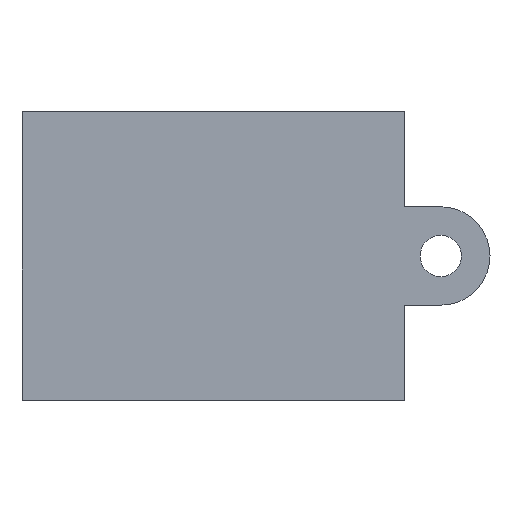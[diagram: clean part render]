
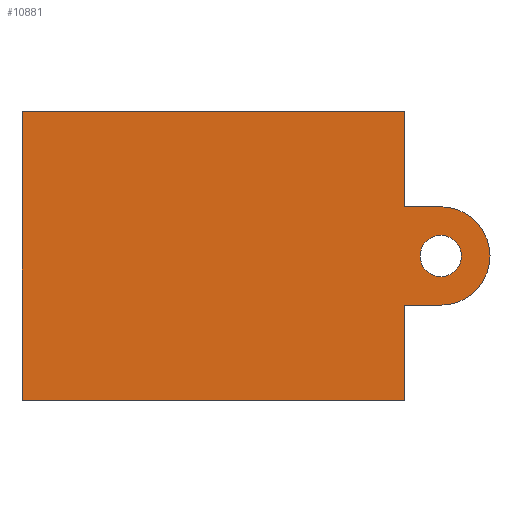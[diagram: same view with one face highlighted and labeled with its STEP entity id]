
A CAD part, top view. The second image highlights one B-rep face of the part: STEP entity #10881.
In plain terms, the highlighted planar face has unit normal (0, 0, 1).
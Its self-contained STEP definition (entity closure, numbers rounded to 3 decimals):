
#390=LINE('',#15759,#1622);
#492=LINE('',#16279,#1724);
#550=LINE('',#16466,#1782);
#594=LINE('',#16808,#1826);
#600=LINE('',#16828,#1832);
#601=LINE('',#16830,#1833);
#602=LINE('',#16834,#1834);
#1622=VECTOR('',#12608,1000.);
#1724=VECTOR('',#12870,1000.);
#1782=VECTOR('',#13010,1000.);
#1826=VECTOR('',#13210,1000.);
#1832=VECTOR('',#13228,1000.);
#1833=VECTOR('',#13229,1000.);
#1834=VECTOR('',#13232,1000.);
#3404=ORIENTED_EDGE('',*,*,#6605,.T.);
#3405=ORIENTED_EDGE('',*,*,#6606,.T.);
#3406=ORIENTED_EDGE('',*,*,#6607,.T.);
#3407=ORIENTED_EDGE('',*,*,#6608,.T.);
#3408=ORIENTED_EDGE('',*,*,#6609,.T.);
#3409=ORIENTED_EDGE('',*,*,#6171,.T.);
#3410=ORIENTED_EDGE('',*,*,#6468,.F.);
#3411=ORIENTED_EDGE('',*,*,#6595,.F.);
#3412=ORIENTED_EDGE('',*,*,#6375,.T.);
#6171=EDGE_CURVE('',#7816,#7818,#390,.T.);
#6375=EDGE_CURVE('',#8003,#8002,#492,.T.);
#6468=EDGE_CURVE('',#8086,#7818,#550,.T.);
#6595=EDGE_CURVE('',#8003,#8086,#594,.T.);
#6605=EDGE_CURVE('',#8174,#8174,#8972,.F.);
#6606=EDGE_CURVE('',#8002,#8175,#600,.T.);
#6607=EDGE_CURVE('',#8175,#8176,#601,.T.);
#6608=EDGE_CURVE('',#8176,#8177,#8973,.T.);
#6609=EDGE_CURVE('',#8177,#7816,#602,.T.);
#7816=VERTEX_POINT('',#15754);
#7818=VERTEX_POINT('',#15758);
#8002=VERTEX_POINT('',#16278);
#8003=VERTEX_POINT('',#16280);
#8086=VERTEX_POINT('',#16465);
#8174=VERTEX_POINT('',#16827);
#8175=VERTEX_POINT('',#16829);
#8176=VERTEX_POINT('',#16831);
#8177=VERTEX_POINT('',#16833);
#8972=CIRCLE('',#11809,2.);
#8973=CIRCLE('',#11810,4.75);
#9206=EDGE_LOOP('',(#3404));
#9207=EDGE_LOOP('',(#3405,#3406,#3407,#3408,#3409,#3410,#3411,#3412));
#9830=FACE_BOUND('',#9206,.T.);
#9831=FACE_BOUND('',#9207,.T.);
#10423=PLANE('',#11808);
#10881=ADVANCED_FACE('',(#9830,#9831),#10423,.T.);
#11808=AXIS2_PLACEMENT_3D('',#16825,#13224,#13225);
#11809=AXIS2_PLACEMENT_3D('',#16826,#13226,#13227);
#11810=AXIS2_PLACEMENT_3D('',#16832,#13230,#13231);
#12608=DIRECTION('',(0.,1.,0.));
#12870=DIRECTION('',(1.,0.,0.));
#13010=DIRECTION('',(1.,0.,0.));
#13210=DIRECTION('',(0.,1.,0.));
#13224=DIRECTION('',(0.,0.,1.));
#13225=DIRECTION('',(1.,0.,0.));
#13226=DIRECTION('',(0.,0.,1.));
#13227=DIRECTION('',(1.,0.,0.));
#13228=DIRECTION('',(0.,1.,0.));
#13229=DIRECTION('',(1.,0.,0.));
#13230=DIRECTION('',(0.,0.,1.));
#13231=DIRECTION('',(-1.,0.,0.));
#13232=DIRECTION('',(-1.,0.,0.));
#15754=CARTESIAN_POINT('',(19.453,4.749,0.));
#15758=CARTESIAN_POINT('',(19.453,13.95,0.));
#15759=CARTESIAN_POINT('',(19.453,-13.95,0.));
#16278=CARTESIAN_POINT('',(19.453,-13.95,0.));
#16279=CARTESIAN_POINT('',(19.453,-13.95,0.));
#16280=CARTESIAN_POINT('',(-17.5,-13.95,0.));
#16465=CARTESIAN_POINT('',(-17.5,13.95,0.));
#16466=CARTESIAN_POINT('',(19.453,13.95,0.));
#16808=CARTESIAN_POINT('',(-17.5,-13.95,0.));
#16825=CARTESIAN_POINT('',(19.453,-13.95,0.));
#16826=CARTESIAN_POINT('',(22.953,-0.001,0.));
#16827=CARTESIAN_POINT('',(24.953,-0.001,0.));
#16828=CARTESIAN_POINT('',(19.453,-13.95,0.));
#16829=CARTESIAN_POINT('',(19.453,-4.751,0.));
#16830=CARTESIAN_POINT('',(22.953,-4.751,0.));
#16831=CARTESIAN_POINT('',(22.953,-4.751,0.));
#16832=CARTESIAN_POINT('',(22.953,-0.001,0.));
#16833=CARTESIAN_POINT('',(22.953,4.749,0.));
#16834=CARTESIAN_POINT('',(22.953,4.749,0.));
